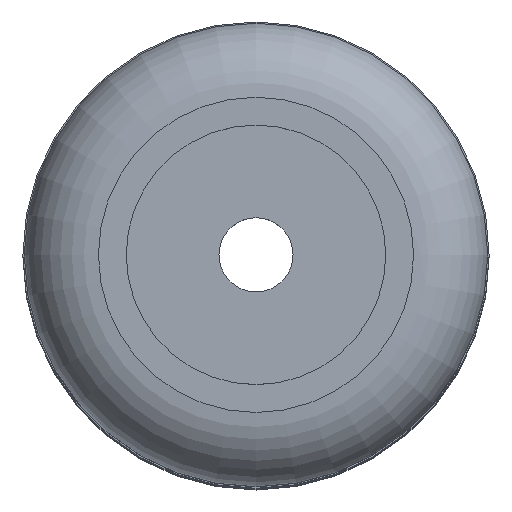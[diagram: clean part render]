
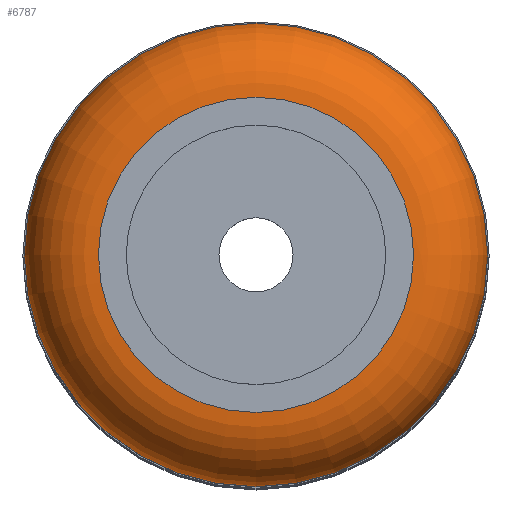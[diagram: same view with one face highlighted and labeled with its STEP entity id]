
A CAD part, top view. The second image highlights one B-rep face of the part: STEP entity #6787.
In plain terms, the highlighted toroidal (fillet/blend) face has major radius 17 mm and minor radius 8 mm.
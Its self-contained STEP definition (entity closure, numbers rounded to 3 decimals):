
#34=TOROIDAL_SURFACE('',#24316,17.,8.);
#6787=ADVANCED_FACE('',(#8461,#8462),#34,.T.);
#8461=FACE_BOUND('',#8628,.T.);
#8462=FACE_BOUND('',#8629,.T.);
#8628=EDGE_LOOP('',(#10024));
#8629=EDGE_LOOP('',(#10025));
#10024=ORIENTED_EDGE('',*,*,#19548,.F.);
#10025=ORIENTED_EDGE('',*,*,#19549,.F.);
#17130=VERTEX_POINT('',#36907);
#17131=VERTEX_POINT('',#36909);
#19548=EDGE_CURVE('',#17130,#17130,#23098,.T.);
#19549=EDGE_CURVE('',#17131,#17131,#23099,.T.);
#23098=CIRCLE('',#24314,25.);
#23099=CIRCLE('',#24315,17.);
#24314=AXIS2_PLACEMENT_3D('',#36906,#26775,#26776);
#24315=AXIS2_PLACEMENT_3D('',#36908,#26777,#26778);
#24316=AXIS2_PLACEMENT_3D('',#36910,#26779,#26780);
#26775=DIRECTION('',(0.,0.,-1.));
#26776=DIRECTION('',(1.,0.,0.));
#26777=DIRECTION('',(0.,0.,1.));
#26778=DIRECTION('',(1.,0.,0.));
#26779=DIRECTION('',(0.,0.,1.));
#26780=DIRECTION('',(1.,0.,0.));
#36906=CARTESIAN_POINT('',(0.,200.,152.5));
#36907=CARTESIAN_POINT('',(25.,200.,152.5));
#36908=CARTESIAN_POINT('',(0.,200.,160.5));
#36909=CARTESIAN_POINT('',(17.,200.,160.5));
#36910=CARTESIAN_POINT('',(0.,200.,152.5));
